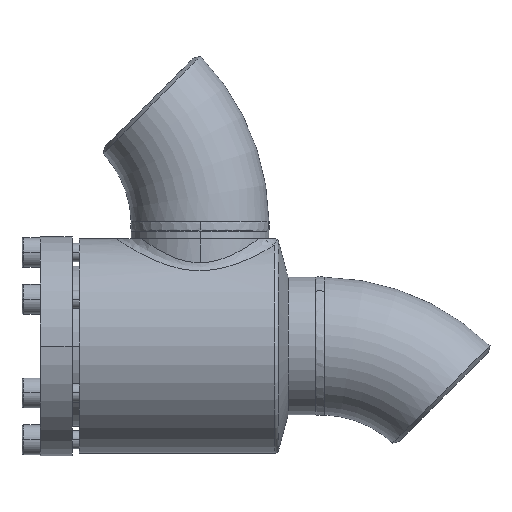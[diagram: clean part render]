
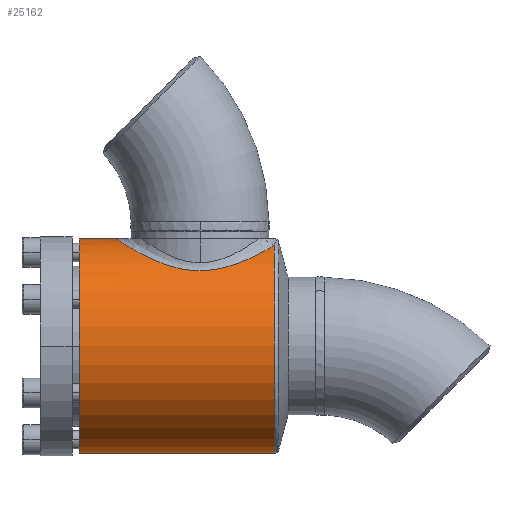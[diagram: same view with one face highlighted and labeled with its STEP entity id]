
A CAD part, left-side view. The second image highlights one B-rep face of the part: STEP entity #25162.
In plain terms, the highlighted cylindrical face has radius 47 mm (diameter 94 mm), a partial arc.
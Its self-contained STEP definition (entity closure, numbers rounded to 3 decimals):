
#16657 = EDGE_CURVE ( 'NONE', #4059, #13120, #6588, .T. ) ;
#1300 = VERTEX_POINT ( 'NONE', #27265 ) ;
#1701 = EDGE_CURVE ( 'NONE', #14973, #1300, #28293, .T. ) ;
#18641 = LINE ( 'NONE', #18642, #18643 ) ;
#18642 = CARTESIAN_POINT ( 'NONE',  ( 0., -91., 47. ) ) ;
#18643 = VECTOR ( 'NONE', #18644, 1000. ) ;
#18644 = DIRECTION ( 'NONE',  ( 0., 1., 0. ) ) ;
#4059 = VERTEX_POINT ( 'NONE', #6887 ) ;
#21899 = ORIENTED_EDGE ( 'NONE', *, *, #16657, .T. ) ;
#5802 = CARTESIAN_POINT ( 'NONE',  ( 0., 0., 47. ) ) ;
#22822 = EDGE_CURVE ( 'NONE', #14973, #4059, #29076, .T. ) ;
#6588 = B_SPLINE_CURVE_WITH_KNOTS ( 'NONE', 3,
 ( #6589, #6590, #6591, #6592, #6593, #6594, #6595, #6596, #6614, #6615, #6616, #6617, #6618, #6619, #6620, #6621, #6622, #6623, #6624, #6625, #6626, #6627, #6628, #6629, #6649, #6650, #6651, #6652, #6653, #6654, #6655, #6656, #6657, #6658, #6659, #6660, #6661, #6662, #6663, #6664, #6681, #6682, #6683, #6684, #6685, #6686, #6687, #6688, #6689, #6690, #6691, #6692, #6693, #6694, #6695, #6696, #6715, #6716, #6717, #6718, #6719, #6720 ),
 .UNSPECIFIED., .F., .F.,
 ( 4, 2, 2, 2, 2, 2, 2, 2, 2, 2, 2, 2, 2, 2, 2, 2, 2, 2, 2, 2, 2, 2, 2, 2, 2, 2, 2, 2, 2, 2, 4 ),
 ( 0.017, 0.023, 0.026, 0.029, 0.035, 0.039, 0.04, 0.042, 0.048, 0.051, 0.052, 0.054, 0.06, 0.063, 0.066, 0.069, 0.072, 0.078, 0.081, 0.083, 0.084, 0.09, 0.093, 0.095, 0.096, 0.103, 0.106, 0.107, 0.109, 0.112, 0.115 ),
 .UNSPECIFIED. ) ;
#6589 = CARTESIAN_POINT ( 'NONE',  ( -16.073, -85.446, 44.166 ) ) ;
#6590 = CARTESIAN_POINT ( 'NONE',  ( -17.749, -84.43, 43.556 ) ) ;
#6591 = CARTESIAN_POINT ( 'NONE',  ( -19.293, -83.29, 42.887 ) ) ;
#6592 = CARTESIAN_POINT ( 'NONE',  ( -21.444, -81.41, 41.831 ) ) ;
#6593 = CARTESIAN_POINT ( 'NONE',  ( -22.133, -80.755, 41.469 ) ) ;
#6594 = CARTESIAN_POINT ( 'NONE',  ( -23.459, -79.389, 40.734 ) ) ;
#6595 = CARTESIAN_POINT ( 'NONE',  ( -24.096, -78.676, 40.359 ) ) ;
#6596 = CARTESIAN_POINT ( 'NONE',  ( -25.907, -76.48, 39.24 ) ) ;
#6614 = CARTESIAN_POINT ( 'NONE',  ( -26.989, -74.936, 38.497 ) ) ;
#6615 = CARTESIAN_POINT ( 'NONE',  ( -28.44, -72.491, 37.424 ) ) ;
#6616 = CARTESIAN_POINT ( 'NONE',  ( -28.894, -71.655, 37.073 ) ) ;
#6617 = CARTESIAN_POINT ( 'NONE',  ( -29.533, -70.366, 36.563 ) ) ;
#6618 = CARTESIAN_POINT ( 'NONE',  ( -29.739, -69.93, 36.396 ) ) ;
#6619 = CARTESIAN_POINT ( 'NONE',  ( -30.137, -69.047, 36.067 ) ) ;
#6620 = CARTESIAN_POINT ( 'NONE',  ( -30.328, -68.599, 35.906 ) ) ;
#6621 = CARTESIAN_POINT ( 'NONE',  ( -31.243, -66.344, 35.126 ) ) ;
#6622 = CARTESIAN_POINT ( 'NONE',  ( -31.842, -64.482, 34.576 ) ) ;
#6623 = CARTESIAN_POINT ( 'NONE',  ( -32.541, -61.591, 33.914 ) ) ;
#6624 = CARTESIAN_POINT ( 'NONE',  ( -32.74, -60.61, 33.721 ) ) ;
#6625 = CARTESIAN_POINT ( 'NONE',  ( -32.986, -59.111, 33.48 ) ) ;
#6626 = CARTESIAN_POINT ( 'NONE',  ( -33.059, -58.608, 33.408 ) ) ;
#6627 = CARTESIAN_POINT ( 'NONE',  ( -33.186, -57.603, 33.282 ) ) ;
#6628 = CARTESIAN_POINT ( 'NONE',  ( -33.239, -57.1, 33.229 ) ) ;
#6629 = CARTESIAN_POINT ( 'NONE',  ( -33.462, -54.583, 33.006 ) ) ;
#6649 = CARTESIAN_POINT ( 'NONE',  ( -33.49, -52.562, 32.976 ) ) ;
#6650 = CARTESIAN_POINT ( 'NONE',  ( -33.307, -49.52, 33.161 ) ) ;
#6651 = CARTESIAN_POINT ( 'NONE',  ( -33.207, -48.498, 33.262 ) ) ;
#6652 = CARTESIAN_POINT ( 'NONE',  ( -32.933, -46.49, 33.532 ) ) ;
#6653 = CARTESIAN_POINT ( 'NONE',  ( -32.761, -45.501, 33.702 ) ) ;
#6654 = CARTESIAN_POINT ( 'NONE',  ( -32.346, -43.55, 34.1 ) ) ;
#6655 = CARTESIAN_POINT ( 'NONE',  ( -32.103, -42.587, 34.33 ) ) ;
#6656 = CARTESIAN_POINT ( 'NONE',  ( -31.549, -40.688, 34.839 ) ) ;
#6657 = CARTESIAN_POINT ( 'NONE',  ( -31.237, -39.749, 35.121 ) ) ;
#6658 = CARTESIAN_POINT ( 'NONE',  ( -30.211, -37.009, 36.016 ) ) ;
#6659 = CARTESIAN_POINT ( 'NONE',  ( -29.406, -35.272, 36.683 ) ) ;
#6660 = CARTESIAN_POINT ( 'NONE',  ( -28.021, -32.781, 37.738 ) ) ;
#6661 = CARTESIAN_POINT ( 'NONE',  ( -27.529, -31.97, 38.099 ) ) ;
#6662 = CARTESIAN_POINT ( 'NONE',  ( -26.744, -30.781, 38.65 ) ) ;
#6663 = CARTESIAN_POINT ( 'NONE',  ( -26.475, -30.389, 38.835 ) ) ;
#6664 = CARTESIAN_POINT ( 'NONE',  ( -25.92, -29.615, 39.208 ) ) ;
#6681 = CARTESIAN_POINT ( 'NONE',  ( -25.634, -29.233, 39.396 ) ) ;
#6682 = CARTESIAN_POINT ( 'NONE',  ( -24.175, -27.357, 40.33 ) ) ;
#6683 = CARTESIAN_POINT ( 'NONE',  ( -22.902, -25.964, 41.072 ) ) ;
#6684 = CARTESIAN_POINT ( 'NONE',  ( -20.822, -24.029, 42.143 ) ) ;
#6685 = CARTESIAN_POINT ( 'NONE',  ( -20.099, -23.411, 42.494 ) ) ;
#6686 = CARTESIAN_POINT ( 'NONE',  ( -18.969, -22.523, 43.004 ) ) ;
#6687 = CARTESIAN_POINT ( 'NONE',  ( -18.584, -22.235, 43.172 ) ) ;
#6688 = CARTESIAN_POINT ( 'NONE',  ( -17.798, -21.671, 43.502 ) ) ;
#6689 = CARTESIAN_POINT ( 'NONE',  ( -17.396, -21.396, 43.664 ) ) ;
#6690 = CARTESIAN_POINT ( 'NONE',  ( -15.356, -20.064, 44.455 ) ) ;
#6691 = CARTESIAN_POINT ( 'NONE',  ( -13.635, -19.147, 45.018 ) ) ;
#6692 = CARTESIAN_POINT ( 'NONE',  ( -10.906, -18.006, 45.727 ) ) ;
#6693 = CARTESIAN_POINT ( 'NONE',  ( -9.972, -17.666, 45.94 ) ) ;
#6694 = CARTESIAN_POINT ( 'NONE',  ( -8.53, -17.219, 46.222 ) ) ;
#6695 = CARTESIAN_POINT ( 'NONE',  ( -8.041, -17.081, 46.31 ) ) ;
#6696 = CARTESIAN_POINT ( 'NONE',  ( -7.058, -16.829, 46.47 ) ) ;
#6715 = CARTESIAN_POINT ( 'NONE',  ( -6.563, -16.715, 46.542 ) ) ;
#6716 = CARTESIAN_POINT ( 'NONE',  ( -5.066, -16.41, 46.737 ) ) ;
#6717 = CARTESIAN_POINT ( 'NONE',  ( -4.049, -16.255, 46.836 ) ) ;
#6718 = CARTESIAN_POINT ( 'NONE',  ( -2.024, -16.051, 46.967 ) ) ;
#6719 = CARTESIAN_POINT ( 'NONE',  ( -1.011, -16., 47. ) ) ;
#6720 = CARTESIAN_POINT ( 'NONE',  ( 0., -16., 47. ) ) ;
#6887 = CARTESIAN_POINT ( 'NONE',  ( -16.073, -85.446, 44.166 ) ) ;
#23435 = ORIENTED_EDGE ( 'NONE', *, *, #22822, .T. ) ;
#23911 = ORIENTED_EDGE ( 'NONE', *, *, #1701, .F. ) ;
#7640 = CARTESIAN_POINT ( 'NONE',  ( 0., -16., 47. ) ) ;
#24278 = FACE_OUTER_BOUND ( 'NONE', #24726, .T. ) ;
#24279 = CYLINDRICAL_SURFACE ( 'NONE', #24280, 47. ) ;
#24280 = AXIS2_PLACEMENT_3D ( 'NONE', #24298, #24299, #24300 ) ;
#24298 = CARTESIAN_POINT ( 'NONE',  ( 0., -91., 0. ) ) ;
#24299 = DIRECTION ( 'NONE',  ( 0., 1., 0. ) ) ;
#24300 = DIRECTION ( 'NONE',  ( 0., 0., 1. ) ) ;
#24726 = EDGE_LOOP ( 'NONE', ( #23911, #23435, #21899, #30738, #26102 ) ) ;
#25162 = ADVANCED_FACE ( 'NONE', ( #24278 ), #24279, .T. ) ;
#26102 = ORIENTED_EDGE ( 'NONE', *, *, #27394, .F. ) ;
#27265 = CARTESIAN_POINT ( 'NONE',  ( 0., 0., -47. ) ) ;
#27394 = EDGE_CURVE ( 'NONE', #1300, #32630, #29289, .T. ) ;
#28293 = LINE ( 'NONE', #28294, #28295 ) ;
#28294 = CARTESIAN_POINT ( 'NONE',  ( 0., -91., -47. ) ) ;
#28295 = VECTOR ( 'NONE', #28296, 1000. ) ;
#28296 = DIRECTION ( 'NONE',  ( 0., 1., 0. ) ) ;
#29076 = CIRCLE ( 'NONE', #29093, 47. ) ;
#29093 = AXIS2_PLACEMENT_3D ( 'NONE', #29094, #29095, #29096 ) ;
#29094 = CARTESIAN_POINT ( 'NONE',  ( 0., -85.446, 0. ) ) ;
#29095 = DIRECTION ( 'NONE',  ( 0., 1., 0. ) ) ;
#29096 = DIRECTION ( 'NONE',  ( 0., 0., -1. ) ) ;
#29289 = CIRCLE ( 'NONE', #29290, 47. ) ;
#29290 = AXIS2_PLACEMENT_3D ( 'NONE', #29291, #29292, #29293 ) ;
#29291 = CARTESIAN_POINT ( 'NONE',  ( 0., 0., 0. ) ) ;
#29292 = DIRECTION ( 'NONE',  ( 0., 1., 0. ) ) ;
#29293 = DIRECTION ( 'NONE',  ( 0., 0., 1. ) ) ;
#13120 = VERTEX_POINT ( 'NONE', #7640 ) ;
#29641 = CARTESIAN_POINT ( 'NONE',  ( 0., -85.446, -47. ) ) ;
#13449 = EDGE_CURVE ( 'NONE', #13120, #32630, #18641, .T. ) ;
#30738 = ORIENTED_EDGE ( 'NONE', *, *, #13449, .T. ) ;
#14973 = VERTEX_POINT ( 'NONE', #29641 ) ;
#32630 = VERTEX_POINT ( 'NONE', #5802 ) ;
